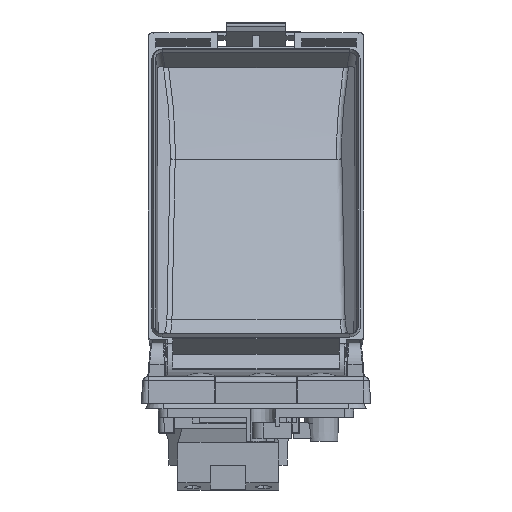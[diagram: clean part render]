
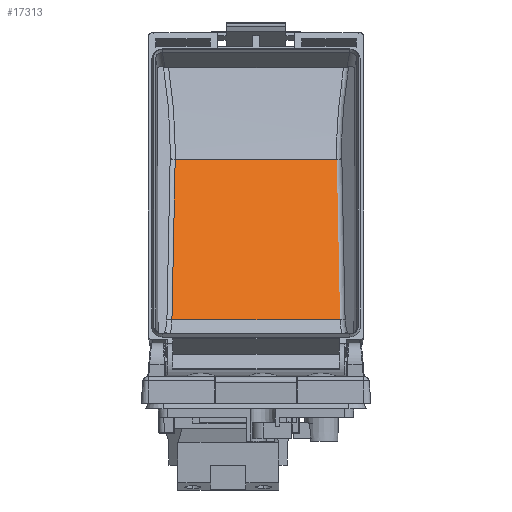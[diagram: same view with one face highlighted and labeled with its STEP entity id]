
A CAD part, left-side view. The second image highlights one B-rep face of the part: STEP entity #17313.
In plain terms, the highlighted planar face has unit normal (-0.865, 0, 0.502).
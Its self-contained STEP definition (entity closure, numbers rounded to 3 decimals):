
#5162 = CARTESIAN_POINT ( 'NONE',  ( 71.612, 243.595, 16.093 ) ) ;
#6242 = CARTESIAN_POINT ( 'NONE',  ( 97.905, 189.435, 61.35 ) ) ;
#7995 = VECTOR ( 'NONE', #16528, 1000. ) ;
#8281 = ORIENTED_EDGE ( 'NONE', *, *, #56286, .T. ) ;
#8414 = ORIENTED_EDGE ( 'NONE', *, *, #46847, .T. ) ;
#8796 = CARTESIAN_POINT ( 'NONE',  ( 71.612, 196.074, 16.093 ) ) ;
#12738 = LINE ( 'NONE', #34335, #7995 ) ;
#14679 = PLANE ( 'NONE',  #32425 ) ;
#15996 = CARTESIAN_POINT ( 'NONE',  ( 71.612, 196.074, 16.093 ) ) ;
#16528 = DIRECTION ( 'NONE',  ( 0., -1., 0. ) ) ;
#16608 = DIRECTION ( 'NONE',  ( 0., 1., 0. ) ) ;
#16869 = CARTESIAN_POINT ( 'NONE',  ( 97.905, 242.682, 61.35 ) ) ;
#17313 = ADVANCED_FACE ( 'NONE', ( #41030 ), #14679, .F. ) ;
#21516 = DIRECTION ( 'NONE',  ( -0.502, 0., -0.865 ) ) ;
#23044 = CARTESIAN_POINT ( 'NONE',  ( 89.141, 242.986, 46.264 ) ) ;
#23455 = ORIENTED_EDGE ( 'NONE', *, *, #28523, .T. ) ;
#24175 = VERTEX_POINT ( 'NONE', #16869 ) ;
#24494 = VERTEX_POINT ( 'NONE', #8796 ) ;
#25383 = CARTESIAN_POINT ( 'NONE',  ( 71.612, 243.595, 16.093 ) ) ;
#28523 = EDGE_CURVE ( 'NONE', #24494, #44703, #46337, .T. ) ;
#32425 = AXIS2_PLACEMENT_3D ( 'NONE', #6242, #57139, #21516 ) ;
#33796 = CARTESIAN_POINT ( 'NONE',  ( 97.905, 196.988, 61.35 ) ) ;
#34335 = CARTESIAN_POINT ( 'NONE',  ( 71.612, 189.435, 16.093 ) ) ;
#34410 = LINE ( 'NONE', #41984, #57434 ) ;
#40466 = CARTESIAN_POINT ( 'NONE',  ( 89.141, 196.683, 46.264 ) ) ;
#41030 = FACE_OUTER_BOUND ( 'NONE', #56357, .T. ) ;
#41984 = CARTESIAN_POINT ( 'NONE',  ( 97.905, 189.435, 61.35 ) ) ;
#44703 = VERTEX_POINT ( 'NONE', #54819 ) ;
#46337 = B_SPLINE_CURVE_WITH_KNOTS ( 'NONE', 3,
 ( #15996, #48007, #40466, #33796 ),
 .UNSPECIFIED., .F., .F.,
 ( 4, 4 ),
 ( 0., 1. ),
 .UNSPECIFIED. ) ;
#46847 = EDGE_CURVE ( 'NONE', #24175, #58161, #54376, .T. ) ;
#48007 = CARTESIAN_POINT ( 'NONE',  ( 80.377, 196.379, 31.179 ) ) ;
#48456 = CARTESIAN_POINT ( 'NONE',  ( 97.905, 242.682, 61.35 ) ) ;
#50271 = EDGE_CURVE ( 'NONE', #44703, #24175, #34410, .T. ) ;
#54376 = B_SPLINE_CURVE_WITH_KNOTS ( 'NONE', 3,
 ( #48456, #23044, #55965, #5162 ),
 .UNSPECIFIED., .F., .F.,
 ( 4, 4 ),
 ( 0., 1. ),
 .UNSPECIFIED. ) ;
#54557 = ORIENTED_EDGE ( 'NONE', *, *, #50271, .T. ) ;
#54819 = CARTESIAN_POINT ( 'NONE',  ( 97.905, 196.988, 61.35 ) ) ;
#55965 = CARTESIAN_POINT ( 'NONE',  ( 80.377, 243.291, 31.179 ) ) ;
#56286 = EDGE_CURVE ( 'NONE', #58161, #24494, #12738, .T. ) ;
#56357 = EDGE_LOOP ( 'NONE', ( #23455, #54557, #8414, #8281 ) ) ;
#57139 = DIRECTION ( 'NONE',  ( 0.865, 0., -0.502 ) ) ;
#57434 = VECTOR ( 'NONE', #16608, 1000. ) ;
#58161 = VERTEX_POINT ( 'NONE', #25383 ) ;
